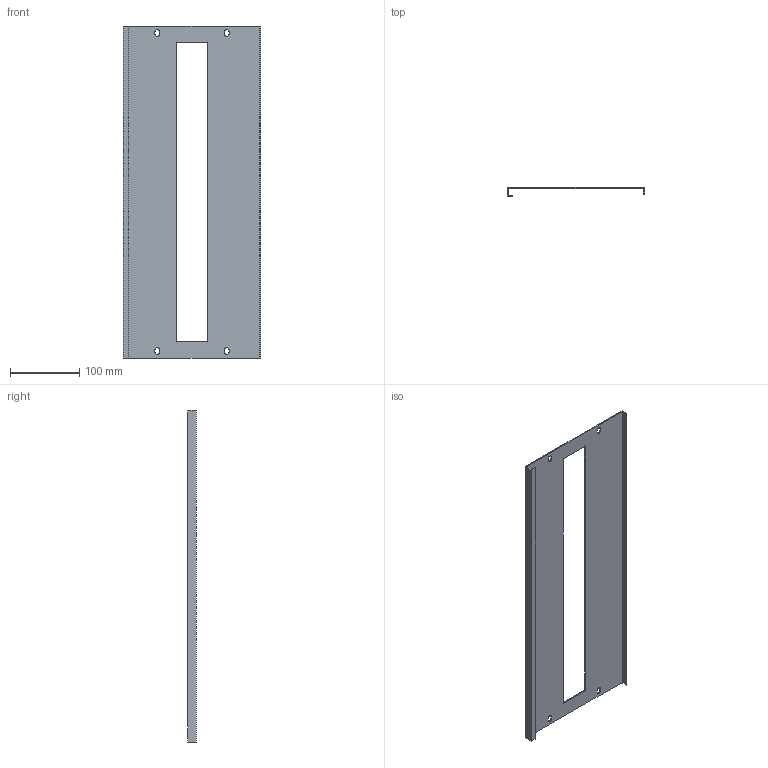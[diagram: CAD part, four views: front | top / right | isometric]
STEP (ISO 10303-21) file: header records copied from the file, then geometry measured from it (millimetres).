
FILE_DESCRIPTION (( 'STEP AP214' ), '1' );
FILE_NAME ('FO-00-PVM-020-060 Ïëàñòðîí äëÿ ìîäóëüíûõ óñòðîéñòâ 200õ600.STEP', '2025-08-26T08:06:53', ( '' ), ( '' ), 'SwSTEP 2.0', 'SolidWorks 2023', '' );
FILE_SCHEMA (( 'AUTOMOTIVE_DESIGN' ));
Length unit declared in the file: millimetre
Products named in the file (1): FO-00-PVM-020-060 Пластрон для модульных устройств 200х600
Bounding box: 198 x 12.5 x 479 mm (x, y, z)
Volume: 131103.1 mm3; surface area: 178513.6 mm2
Topology: 1 solids, 1 shells, 46 faces, 132 edges, 88 vertices
Faces by surface type: plane 34, cylinder 12
Entity records: 1543 total; most frequent: CARTESIAN_POINT 267, ORIENTED_EDGE 264, DIRECTION 250, EDGE_CURVE 132, LINE 108, VECTOR 108, VERTEX_POINT 88, AXIS2_PLACEMENT_3D 71
